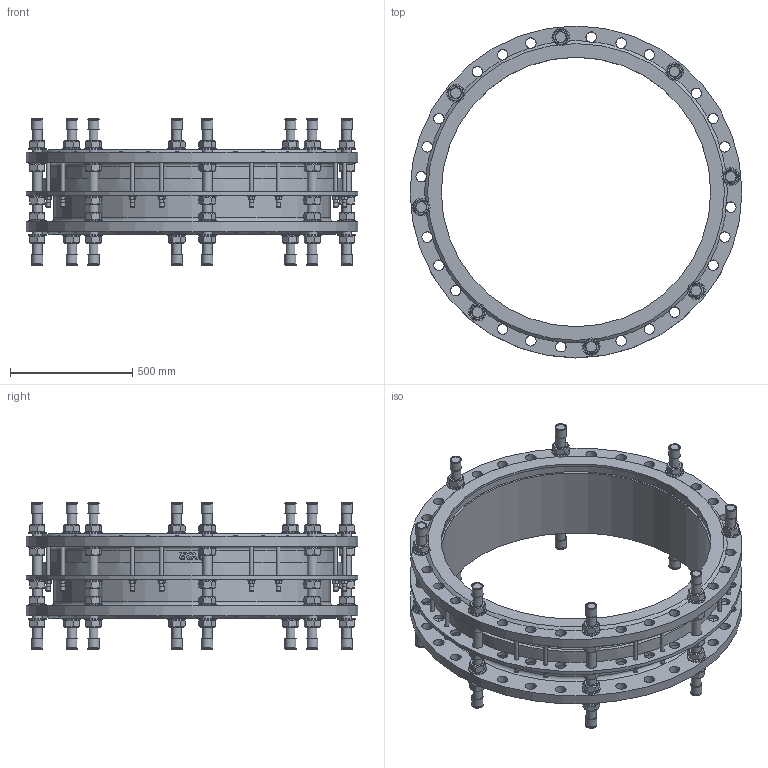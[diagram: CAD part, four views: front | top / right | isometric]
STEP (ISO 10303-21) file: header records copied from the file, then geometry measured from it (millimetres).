
FILE_DESCRIPTION(('STEP AP242'), '1');
FILE_NAME('Ìîíòàæíàÿ âñòàâêà', '', ('UNSPECIFIED'), ('UNSPECIFIED'), 'C3D Converter', 'C3D Toolkit', '');
FILE_SCHEMA(('AP242_MANAGED_MODEL_BASED_3D_ENGINEERING_MIM_LF { 1 0 10303 442 1 1 4 }'));
Length unit declared in the file: millimetre
Products named in the file (13): ШМ.М16.310; ШМ.М16.206
Assembly tree (172 placements, depth 2):
  (unnamed)
    (unnamed)
    (unnamed)
    (unnamed)
    (unnamed)
    (unnamed)  x40
    (unnamed)  x40
    ШМ.М16.310  x8
    (unnamed)  x16
    (unnamed)  x16
    (unnamed)  x16
    ШМ.М16.206  x16
    (unnamed)  x16
Bounding box: 1355 x 1355 x 597.8 mm (x, y, z)
Volume: 79187033.3 mm3; surface area: 8970496.2 mm2
Topology: 176 solids, 176 shells, 1496 faces, 3325 edges, 2140 vertices
Faces by surface type: plane 767, cylinder 406, cone 278, torus 34, extrusion 11
Full cylindrical faces by diameter (mm): 16 x64, 17 x16, 18 x16, 19.2 x16, 30 x16, 33.221 x1, 39 x64, 40 x40, 43 x96, 46.8 x16, 72 x40, 1100 x2, 1130 x2, 1145 x2, 1175 x1, 1190 x1, 1197 x1, 1227 x1, 1355 x3
Entity records: 24466 total; most frequent: CARTESIAN_POINT 11261, DIRECTION 2066, ORIENTED_EDGE 1506, AXIS2_PLACEMENT_3D 996, EDGE_CURVE 753, EDGE_LOOP 675, VERTEX_POINT 604, CIRCLE 546
